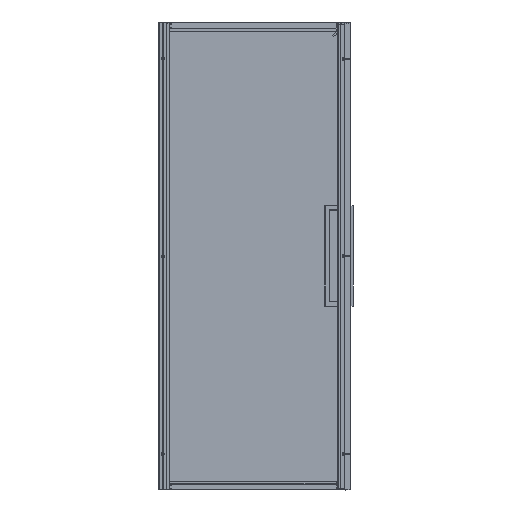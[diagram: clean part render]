
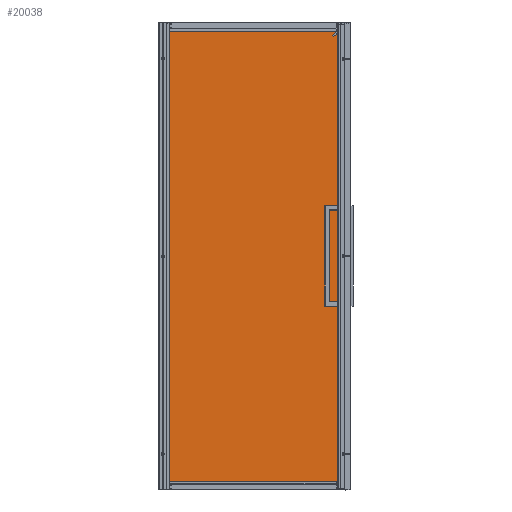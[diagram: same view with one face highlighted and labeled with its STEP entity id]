
A CAD part, left-side view. The second image highlights one B-rep face of the part: STEP entity #20038.
In plain terms, the highlighted planar face has unit normal (-1, 0, 0) as drawn and (0, 0, 1) by its records, which use the part's own axes.
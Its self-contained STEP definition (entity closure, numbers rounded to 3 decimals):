
#19923=DIRECTION('',(0.,-1.,0.));
#19924=VECTOR('',#19923,1899.);
#19925=CARTESIAN_POINT('',(-368.5,949.5,4.));
#19926=LINE('',#19925,#19924);
#19927=DIRECTION('',(-1.,0.,0.));
#19928=VECTOR('',#19927,737.);
#19929=CARTESIAN_POINT('',(368.5,949.5,4.));
#19930=LINE('',#19929,#19928);
#19931=DIRECTION('',(0.,1.,0.));
#19932=VECTOR('',#19931,1899.);
#19933=CARTESIAN_POINT('',(368.5,-949.5,4.));
#19934=LINE('',#19933,#19932);
#19935=DIRECTION('',(1.,0.,0.));
#19936=VECTOR('',#19935,737.);
#19937=CARTESIAN_POINT('',(-368.5,-949.5,4.));
#19938=LINE('',#19937,#19936);
#19947=CARTESIAN_POINT('',(-368.5,949.5,4.));
#19948=CARTESIAN_POINT('',(-368.5,-949.5,4.));
#19949=VERTEX_POINT('',#19947);
#19950=VERTEX_POINT('',#19948);
#19951=CARTESIAN_POINT('',(368.5,-949.5,4.));
#19952=VERTEX_POINT('',#19951);
#19953=CARTESIAN_POINT('',(368.5,949.5,4.));
#19954=VERTEX_POINT('',#19953);
#20027=CARTESIAN_POINT('',(0.,0.,4.));
#20028=DIRECTION('',(0.,0.,1.));
#20029=DIRECTION('',(1.,0.,0.));
#20030=AXIS2_PLACEMENT_3D('',#20027,#20028,#20029);
#20031=PLANE('',#20030);
#20032=ORIENTED_EDGE('',*,*,#19979,.F.);
#20033=ORIENTED_EDGE('',*,*,#19994,.F.);
#20034=ORIENTED_EDGE('',*,*,#20008,.F.);
#20035=ORIENTED_EDGE('',*,*,#20021,.F.);
#20036=EDGE_LOOP('',(#20032,#20033,#20034,#20035));
#20037=FACE_OUTER_BOUND('',#20036,.F.);
#20038=ADVANCED_FACE('',(#20037),#20031,.T.);
#19979=EDGE_CURVE('',#19949,#19950,#19926,.T.);
#19994=EDGE_CURVE('',#19954,#19949,#19930,.T.);
#20008=EDGE_CURVE('',#19952,#19954,#19934,.T.);
#20021=EDGE_CURVE('',#19950,#19952,#19938,.T.);
